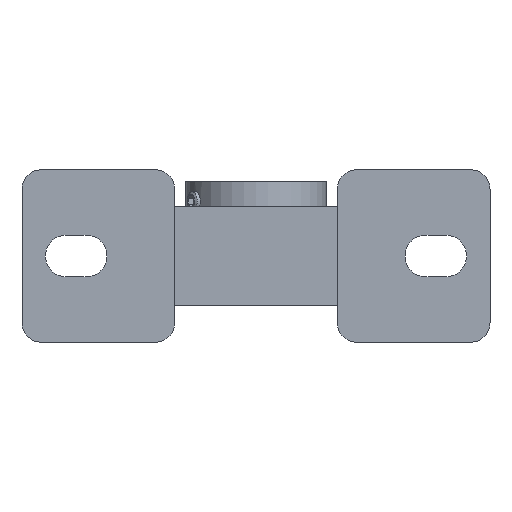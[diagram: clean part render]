
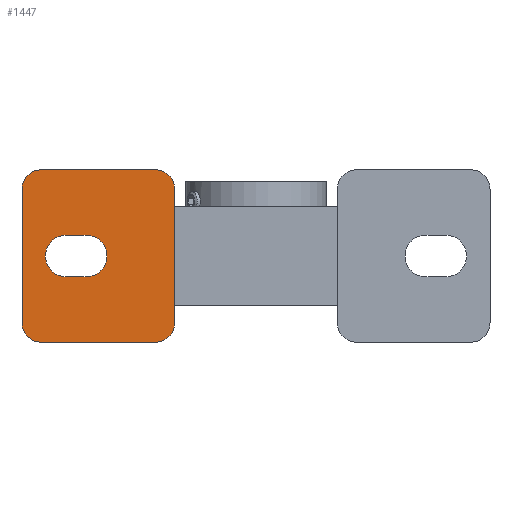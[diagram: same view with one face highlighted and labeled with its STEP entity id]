
A CAD part, front view. The second image highlights one B-rep face of the part: STEP entity #1447.
In plain terms, the highlighted planar face has unit normal (0, -1, 0).
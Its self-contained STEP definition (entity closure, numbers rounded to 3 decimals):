
#179=CARTESIAN_POINT('',(1.355,-66.095,-35.0));
#180=VERTEX_POINT('',#179);
#187=CARTESIAN_POINT('',(-44.645,-66.095,-35.0));
#188=VERTEX_POINT('',#187);
#189=CARTESIAN_POINT('',(1.355,-66.095,-35.0));
#190=DIRECTION('',(-1.0,0.0,0.0));
#191=VECTOR('',#190,46.);
#192=LINE('',#189,#191);
#193=EDGE_CURVE('',#180,#188,#192,.T.);
#628=CARTESIAN_POINT('',(-52.645,-66.095,-27.0));
#629=VERTEX_POINT('',#628);
#630=CARTESIAN_POINT('',(-44.645,-66.095,-27.0));
#631=DIRECTION('',(0.0,1.0,0.0));
#632=DIRECTION('',(-0.707,0.0,-0.707));
#633=AXIS2_PLACEMENT_3D('',#630,#631,#632);
#634=CIRCLE('',#633,8.);
#635=EDGE_CURVE('',#188,#629,#634,.T.);
#798=CARTESIAN_POINT('',(9.355,-66.095,27.));
#799=VERTEX_POINT('',#798);
#806=CARTESIAN_POINT('',(9.355,-66.095,-27.));
#807=VERTEX_POINT('',#806);
#808=CARTESIAN_POINT('',(9.355,-66.095,27.));
#809=DIRECTION('',(0.0,0.0,-1.0));
#810=VECTOR('',#809,54.0);
#811=LINE('',#808,#810);
#812=EDGE_CURVE('',#799,#807,#811,.T.);
#1316=CARTESIAN_POINT('',(-52.645,-66.095,27.0));
#1317=VERTEX_POINT('',#1316);
#1318=CARTESIAN_POINT('',(-52.645,-66.095,-27.0));
#1319=DIRECTION('',(0.0,0.0,1.0));
#1320=VECTOR('',#1319,54.0);
#1321=LINE('',#1318,#1320);
#1322=EDGE_CURVE('',#629,#1317,#1321,.T.);
#1341=CARTESIAN_POINT('',(-44.645,-66.095,35.0));
#1342=VERTEX_POINT('',#1341);
#1343=CARTESIAN_POINT('',(-44.645,-66.095,27.0));
#1344=DIRECTION('',(0.0,1.0,0.0));
#1345=DIRECTION('',(-0.707,0.0,0.707));
#1346=AXIS2_PLACEMENT_3D('',#1343,#1344,#1345);
#1347=CIRCLE('',#1346,8.);
#1348=EDGE_CURVE('',#1317,#1342,#1347,.T.);
#1364=CARTESIAN_POINT('',(1.355,-66.095,-27.0));
#1365=DIRECTION('',(0.0,1.0,0.0));
#1366=DIRECTION('',(0.707,0.0,-0.707));
#1367=AXIS2_PLACEMENT_3D('',#1364,#1365,#1366);
#1368=CIRCLE('',#1367,8.0);
#1369=EDGE_CURVE('',#807,#180,#1368,.T.);
#1383=CARTESIAN_POINT('',(42.355,-66.095,0.0));
#1384=DIRECTION('',(0.0,-1.0,0.0));
#1385=DIRECTION('',(0.0,0.0,-1.0));
#1386=AXIS2_PLACEMENT_3D('',#1383,#1384,#1385);
#1387=PLANE('',#1386);
#1388=ORIENTED_EDGE('',*,*,#635,.F.);
#1389=ORIENTED_EDGE('',*,*,#193,.F.);
#1390=ORIENTED_EDGE('',*,*,#1369,.F.);
#1391=ORIENTED_EDGE('',*,*,#812,.F.);
#1392=CARTESIAN_POINT('',(1.355,-66.095,35.0));
#1393=VERTEX_POINT('',#1392);
#1394=CARTESIAN_POINT('',(1.355,-66.095,27.0));
#1395=DIRECTION('',(0.0,1.0,0.0));
#1396=DIRECTION('',(0.707,0.0,0.707));
#1397=AXIS2_PLACEMENT_3D('',#1394,#1395,#1396);
#1398=CIRCLE('',#1397,8.);
#1399=EDGE_CURVE('',#1393,#799,#1398,.T.);
#1400=ORIENTED_EDGE('',*,*,#1399,.F.);
#1401=CARTESIAN_POINT('',(-44.645,-66.095,35.0));
#1402=DIRECTION('',(1.0,0.0,0.0));
#1403=VECTOR('',#1402,46.);
#1404=LINE('',#1401,#1403);
#1405=EDGE_CURVE('',#1342,#1393,#1404,.T.);
#1406=ORIENTED_EDGE('',*,*,#1405,.F.);
#1407=ORIENTED_EDGE('',*,*,#1348,.F.);
#1408=ORIENTED_EDGE('',*,*,#1322,.F.);
#1409=EDGE_LOOP('',(#1388,#1389,#1390,#1391,#1400,#1406,#1407,#1408));
#1410=FACE_OUTER_BOUND('',#1409,.T.);
#1411=CARTESIAN_POINT('',(-34.645,-66.095,-8.5));
#1412=VERTEX_POINT('',#1411);
#1413=CARTESIAN_POINT('',(-26.645,-66.095,-8.5));
#1414=VERTEX_POINT('',#1413);
#1415=CARTESIAN_POINT('',(-34.645,-66.095,-8.5));
#1416=DIRECTION('',(1.0,0.0,0.0));
#1417=VECTOR('',#1416,8.);
#1418=LINE('',#1415,#1417);
#1419=EDGE_CURVE('',#1412,#1414,#1418,.T.);
#1420=ORIENTED_EDGE('',*,*,#1419,.F.);
#1421=CARTESIAN_POINT('',(-34.645,-66.095,8.5));
#1422=VERTEX_POINT('',#1421);
#1423=CARTESIAN_POINT('',(-34.645,-66.095,0.0));
#1424=DIRECTION('',(0.0,-1.0,0.0));
#1425=DIRECTION('',(0.0,0.0,1.0));
#1426=AXIS2_PLACEMENT_3D('',#1423,#1424,#1425);
#1427=CIRCLE('',#1426,8.5);
#1428=EDGE_CURVE('',#1422,#1412,#1427,.T.);
#1429=ORIENTED_EDGE('',*,*,#1428,.F.);
#1430=CARTESIAN_POINT('',(-26.645,-66.095,8.5));
#1431=VERTEX_POINT('',#1430);
#1432=CARTESIAN_POINT('',(-26.645,-66.095,8.5));
#1433=DIRECTION('',(-1.0,0.0,0.0));
#1434=VECTOR('',#1433,8.);
#1435=LINE('',#1432,#1434);
#1436=EDGE_CURVE('',#1431,#1422,#1435,.T.);
#1437=ORIENTED_EDGE('',*,*,#1436,.F.);
#1438=CARTESIAN_POINT('',(-26.645,-66.095,0.0));
#1439=DIRECTION('',(0.0,-1.0,0.0));
#1440=DIRECTION('',(0.0,0.0,-1.0));
#1441=AXIS2_PLACEMENT_3D('',#1438,#1439,#1440);
#1442=CIRCLE('',#1441,8.5);
#1443=EDGE_CURVE('',#1414,#1431,#1442,.T.);
#1444=ORIENTED_EDGE('',*,*,#1443,.F.);
#1445=EDGE_LOOP('',(#1420,#1429,#1437,#1444));
#1446=FACE_BOUND('',#1445,.T.);
#1447=ADVANCED_FACE('',(#1410,#1446),#1387,.T.);
